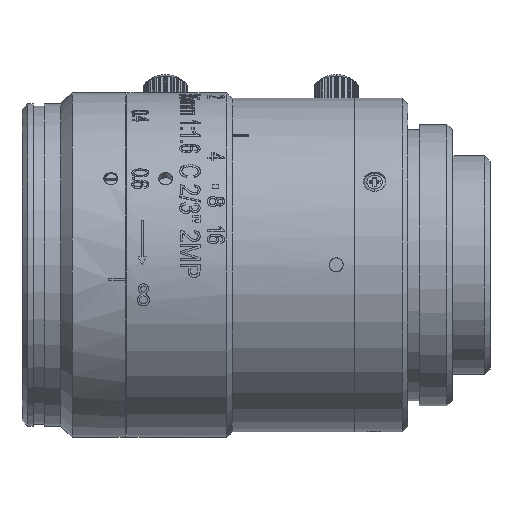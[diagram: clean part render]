
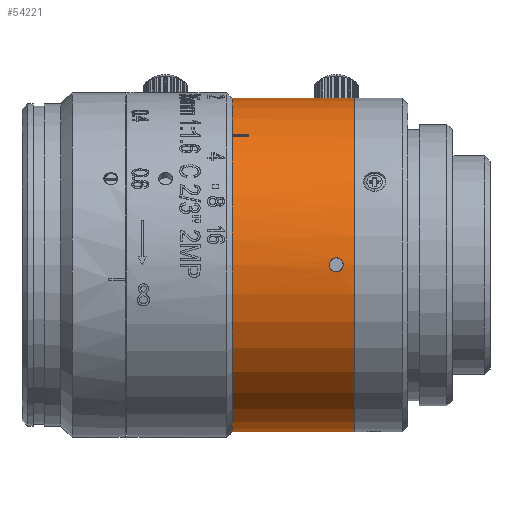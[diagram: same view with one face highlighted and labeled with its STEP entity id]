
A CAD part, top view. The second image highlights one B-rep face of the part: STEP entity #54221.
In plain terms, the highlighted cylindrical face has radius 15 mm (diameter 30 mm), a partial arc.
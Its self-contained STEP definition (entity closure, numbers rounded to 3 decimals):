
#16602=DIRECTION('',(-1.,0.,0.));
#16603=VECTOR('',#16602,10.95);
#16604=CARTESIAN_POINT('',(21.548,15.,0.));
#16605=LINE('',#16604,#16603);
#16633=DIRECTION('',(-1.,0.,0.));
#16634=VECTOR('',#16633,10.95);
#16635=CARTESIAN_POINT('',(21.548,-15.,0.));
#16636=LINE('',#16635,#16634);
#16637=DIRECTION('',(1.,0.,0.));
#16638=VECTOR('',#16637,1.5);
#16639=CARTESIAN_POINT('',(10.598,11.594,9.517));
#16640=LINE('',#16639,#16638);
#16641=DIRECTION('',(-1.,0.,0.));
#16642=VECTOR('',#16641,1.5);
#16643=CARTESIAN_POINT('',(12.098,11.72,9.362));
#16644=LINE('',#16643,#16642);
#16645=CARTESIAN_POINT('',(21.548,0.,0.));
#16646=DIRECTION('',(-1.,0.,0.));
#16647=DIRECTION('',(0.,-1.,0.));
#16648=AXIS2_PLACEMENT_3D('',#16645,#16646,#16647);
#18072=CARTESIAN_POINT('',(10.598,0.,0.));
#18073=DIRECTION('',(1.,0.,0.));
#18074=DIRECTION('',(0.,1.,0.));
#18075=AXIS2_PLACEMENT_3D('',#18072,#18073,#18074);
#18077=CARTESIAN_POINT('',(10.598,0.,0.));
#18078=DIRECTION('',(1.,0.,0.));
#18079=DIRECTION('',(0.,0.773,0.634));
#18080=AXIS2_PLACEMENT_3D('',#18077,#18078,#18079);
#18082=CARTESIAN_POINT('',(10.598,0.,0.));
#18083=DIRECTION('',(1.,0.,0.));
#18084=DIRECTION('',(0.,0.,1.));
#18085=AXIS2_PLACEMENT_3D('',#18082,#18083,#18084);
#18116=CARTESIAN_POINT('',(12.098,0.,0.));
#18117=DIRECTION('',(1.,0.,0.));
#18118=DIRECTION('',(0.,0.781,0.624));
#18119=AXIS2_PLACEMENT_3D('',#18116,#18117,#18118);
#18133=CARTESIAN_POINT('',(19.323,0.,15.));
#18134=CARTESIAN_POINT('',(19.323,0.064,
15.));
#18135=CARTESIAN_POINT('',(19.343,0.194,
14.999));
#18136=CARTESIAN_POINT('',(19.433,0.372,
14.996));
#18137=CARTESIAN_POINT('',(19.574,0.514,
14.991));
#18138=CARTESIAN_POINT('',(19.752,0.604,
14.988));
#18139=CARTESIAN_POINT('',(19.949,0.635,
14.987));
#18140=CARTESIAN_POINT('',(20.145,0.604,
14.988));
#18141=CARTESIAN_POINT('',(20.323,0.513,
14.991));
#18142=CARTESIAN_POINT('',(20.462,0.374,
14.996));
#18143=CARTESIAN_POINT('',(20.553,0.195,
14.999));
#18144=CARTESIAN_POINT('',(20.573,0.065,15.));
#18145=CARTESIAN_POINT('',(20.573,0.,15.));
#18179=CARTESIAN_POINT('',(20.573,0.,15.));
#18180=CARTESIAN_POINT('',(20.573,-0.064,15.));
#18181=CARTESIAN_POINT('',(20.553,-0.194,
14.999));
#18182=CARTESIAN_POINT('',(20.463,-0.372,
14.996));
#18183=CARTESIAN_POINT('',(20.322,-0.514,
14.991));
#18184=CARTESIAN_POINT('',(20.144,-0.604,
14.988));
#18185=CARTESIAN_POINT('',(19.947,-0.635,
14.987));
#18186=CARTESIAN_POINT('',(19.751,-0.604,
14.988));
#18187=CARTESIAN_POINT('',(19.573,-0.513,
14.991));
#18188=CARTESIAN_POINT('',(19.434,-0.374,
14.996));
#18189=CARTESIAN_POINT('',(19.343,-0.195,
14.999));
#18190=CARTESIAN_POINT('',(19.323,-0.065,
15.));
#18191=CARTESIAN_POINT('',(19.323,0.,15.));
#21360=CARTESIAN_POINT('',(10.598,15.,0.));
#21361=CARTESIAN_POINT('',(10.598,11.72,9.362));
#21362=VERTEX_POINT('',#21360);
#21363=VERTEX_POINT('',#21361);
#21364=CARTESIAN_POINT('',(10.598,11.594,9.517));
#21365=VERTEX_POINT('',#21364);
#21366=CARTESIAN_POINT('',(10.598,0.,15.));
#21367=VERTEX_POINT('',#21366);
#21368=CARTESIAN_POINT('',(10.598,-15.,0.));
#21369=VERTEX_POINT('',#21368);
#21370=CARTESIAN_POINT('',(21.548,15.,0.));
#21371=VERTEX_POINT('',#21370);
#21372=CARTESIAN_POINT('',(21.548,-15.,0.));
#21373=VERTEX_POINT('',#21372);
#21374=CARTESIAN_POINT('',(12.098,11.594,9.517));
#21375=VERTEX_POINT('',#21374);
#21376=CARTESIAN_POINT('',(12.098,11.72,9.362));
#21377=VERTEX_POINT('',#21376);
#21378=VERTEX_POINT('',#18133);
#21379=VERTEX_POINT('',#18145);
#54192=CARTESIAN_POINT('',(10.05,0.,0.));
#54193=DIRECTION('',(1.,0.,0.));
#54194=DIRECTION('',(0.,-1.,0.));
#54195=AXIS2_PLACEMENT_3D('',#54192,#54193,#54194);
#54196=CYLINDRICAL_SURFACE('',#54195,15.);
#54197=ORIENTED_EDGE('',*,*,#54169,.F.);
#54199=ORIENTED_EDGE('',*,*,#54198,.F.);
#54200=ORIENTED_EDGE('',*,*,#54165,.T.);
#54202=ORIENTED_EDGE('',*,*,#54201,.F.);
#54204=ORIENTED_EDGE('',*,*,#54203,.F.);
#54206=ORIENTED_EDGE('',*,*,#54205,.T.);
#54208=ORIENTED_EDGE('',*,*,#54207,.F.);
#54210=ORIENTED_EDGE('',*,*,#54209,.T.);
#54212=ORIENTED_EDGE('',*,*,#54211,.F.);
#54213=EDGE_LOOP('',(#54197,#54199,#54200,#54202,#54204,#54206,#54208,#54210,
#54212));
#54214=FACE_OUTER_BOUND('',#54213,.F.);
#54216=ORIENTED_EDGE('',*,*,#54215,.F.);
#54218=ORIENTED_EDGE('',*,*,#54217,.F.);
#54219=EDGE_LOOP('',(#54216,#54218));
#54220=FACE_BOUND('',#54219,.F.);
#16649=CIRCLE('',#16648,15.);
#18076=CIRCLE('',#18075,15.);
#18081=CIRCLE('',#18080,15.);
#18086=CIRCLE('',#18085,15.);
#18120=CIRCLE('',#18119,15.);
#18146=B_SPLINE_CURVE_WITH_KNOTS('',3,(#18133,#18134,#18135,#18136,#18137,
#18138,#18139,#18140,#18141,#18142,#18143,#18144,#18145),.UNSPECIFIED.,.F.,.F.,(
4,1,1,1,1,1,1,1,1,1,4),(0.,0.1,0.2,0.3,0.4,0.5,0.6,0.7,0.8,
0.9,1.),.UNSPECIFIED.);
#18192=B_SPLINE_CURVE_WITH_KNOTS('',3,(#18179,#18180,#18181,#18182,#18183,
#18184,#18185,#18186,#18187,#18188,#18189,#18190,#18191),.UNSPECIFIED.,.F.,.F.,(
4,1,1,1,1,1,1,1,1,1,4),(0.,0.1,0.2,0.3,0.4,0.5,0.6,0.7,0.8,
0.9,1.),.UNSPECIFIED.);
#54165=EDGE_CURVE('',#21373,#21369,#16636,.T.);
#54169=EDGE_CURVE('',#21371,#21362,#16605,.T.);
#54198=EDGE_CURVE('',#21373,#21371,#16649,.T.);
#54201=EDGE_CURVE('',#21367,#21369,#18086,.T.);
#54203=EDGE_CURVE('',#21365,#21367,#18081,.T.);
#54205=EDGE_CURVE('',#21365,#21375,#16640,.T.);
#54207=EDGE_CURVE('',#21377,#21375,#18120,.T.);
#54209=EDGE_CURVE('',#21377,#21363,#16644,.T.);
#54211=EDGE_CURVE('',#21362,#21363,#18076,.T.);
#54215=EDGE_CURVE('',#21378,#21379,#18146,.T.);
#54217=EDGE_CURVE('',#21379,#21378,#18192,.T.);
#54221=ADVANCED_FACE('',(#54214,#54220),#54196,.T.);
